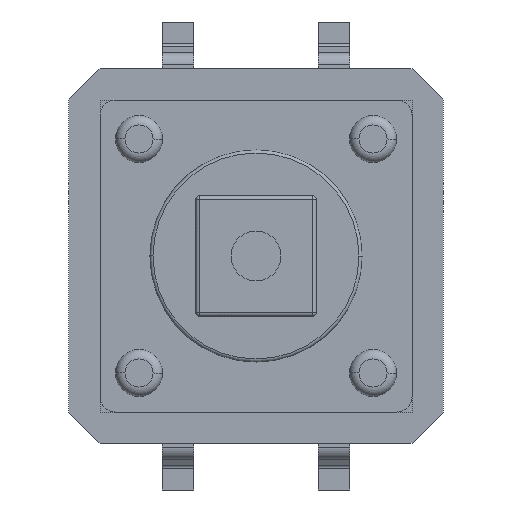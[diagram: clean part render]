
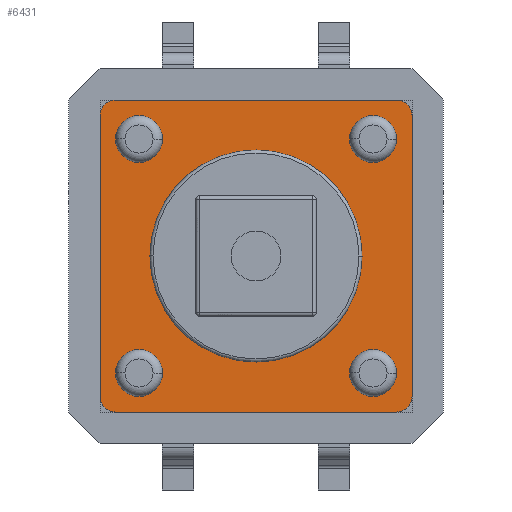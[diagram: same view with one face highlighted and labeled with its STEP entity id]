
A CAD part, front view. The second image highlights one B-rep face of the part: STEP entity #6431.
In plain terms, the highlighted planar face has unit normal (0, -1, 0).
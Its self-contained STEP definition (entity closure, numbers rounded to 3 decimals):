
#6062=CARTESIAN_POINT('',(-3.75,0.,-3.75));
#6063=DIRECTION('',(0.,-1.,0.));
#6064=DIRECTION('',(1.,0.,0.));
#6065=AXIS2_PLACEMENT_3D('',#6062,#6063,#6064);
#6067=CARTESIAN_POINT('',(-3.75,0.,-3.75));
#6068=DIRECTION('',(0.,-1.,0.));
#6069=DIRECTION('',(-1.,0.,0.));
#6070=AXIS2_PLACEMENT_3D('',#6067,#6068,#6069);
#6072=CARTESIAN_POINT('',(3.75,0.,-3.75));
#6073=DIRECTION('',(0.,-1.,0.));
#6074=DIRECTION('',(1.,0.,0.));
#6075=AXIS2_PLACEMENT_3D('',#6072,#6073,#6074);
#6077=CARTESIAN_POINT('',(3.75,0.,-3.75));
#6078=DIRECTION('',(0.,-1.,0.));
#6079=DIRECTION('',(-1.,0.,0.));
#6080=AXIS2_PLACEMENT_3D('',#6077,#6078,#6079);
#6082=CARTESIAN_POINT('',(3.75,0.,3.75));
#6083=DIRECTION('',(0.,-1.,0.));
#6084=DIRECTION('',(1.,0.,0.));
#6085=AXIS2_PLACEMENT_3D('',#6082,#6083,#6084);
#6087=CARTESIAN_POINT('',(3.75,0.,3.75));
#6088=DIRECTION('',(0.,-1.,0.));
#6089=DIRECTION('',(-1.,0.,0.));
#6090=AXIS2_PLACEMENT_3D('',#6087,#6088,#6089);
#6092=CARTESIAN_POINT('',(-3.75,0.,3.75));
#6093=DIRECTION('',(0.,-1.,0.));
#6094=DIRECTION('',(1.,0.,0.));
#6095=AXIS2_PLACEMENT_3D('',#6092,#6093,#6094);
#6097=CARTESIAN_POINT('',(-3.75,0.,3.75));
#6098=DIRECTION('',(0.,-1.,0.));
#6099=DIRECTION('',(-1.,0.,0.));
#6100=AXIS2_PLACEMENT_3D('',#6097,#6098,#6099);
#6102=CARTESIAN_POINT('',(0.,0.,0.));
#6103=DIRECTION('',(0.,-1.,0.));
#6104=DIRECTION('',(1.,0.,0.));
#6105=AXIS2_PLACEMENT_3D('',#6102,#6103,#6104);
#6107=CARTESIAN_POINT('',(0.,0.,0.));
#6108=DIRECTION('',(0.,-1.,0.));
#6109=DIRECTION('',(-1.,0.,0.));
#6110=AXIS2_PLACEMENT_3D('',#6107,#6108,#6109);
#6112=CARTESIAN_POINT('',(-4.5,0.,4.5));
#6113=DIRECTION('',(0.,-1.,0.));
#6114=DIRECTION('',(0.,0.,1.));
#6115=AXIS2_PLACEMENT_3D('',#6112,#6113,#6114);
#6117=DIRECTION('',(1.,0.,0.));
#6118=VECTOR('',#6117,9.);
#6119=CARTESIAN_POINT('',(-4.5,0.,5.));
#6120=LINE('',#6119,#6118);
#6121=CARTESIAN_POINT('',(4.5,0.,4.5));
#6122=DIRECTION('',(0.,-1.,0.));
#6123=DIRECTION('',(1.,0.,0.));
#6124=AXIS2_PLACEMENT_3D('',#6121,#6122,#6123);
#6126=DIRECTION('',(0.,0.,-1.));
#6127=VECTOR('',#6126,9.);
#6128=CARTESIAN_POINT('',(5.,0.,4.5));
#6129=LINE('',#6128,#6127);
#6130=CARTESIAN_POINT('',(4.5,0.,-4.5));
#6131=DIRECTION('',(0.,-1.,0.));
#6132=DIRECTION('',(0.,0.,-1.));
#6133=AXIS2_PLACEMENT_3D('',#6130,#6131,#6132);
#6135=DIRECTION('',(-1.,0.,0.));
#6136=VECTOR('',#6135,9.);
#6137=CARTESIAN_POINT('',(4.5,0.,-5.));
#6138=LINE('',#6137,#6136);
#6139=CARTESIAN_POINT('',(-4.5,0.,-4.5));
#6140=DIRECTION('',(0.,-1.,0.));
#6141=DIRECTION('',(-1.,0.,0.));
#6142=AXIS2_PLACEMENT_3D('',#6139,#6140,#6141);
#6144=DIRECTION('',(0.,0.,1.));
#6145=VECTOR('',#6144,9.);
#6146=CARTESIAN_POINT('',(-5.,0.,-4.5));
#6147=LINE('',#6146,#6145);
#6306=CARTESIAN_POINT('',(-3.5,0.,-3.75));
#6307=CARTESIAN_POINT('',(-4.,0.,-3.75));
#6308=VERTEX_POINT('',#6306);
#6309=VERTEX_POINT('',#6307);
#6310=CARTESIAN_POINT('',(4.,0.,-3.75));
#6311=CARTESIAN_POINT('',(3.5,0.,-3.75));
#6312=VERTEX_POINT('',#6310);
#6313=VERTEX_POINT('',#6311);
#6314=CARTESIAN_POINT('',(4.,0.,3.75));
#6315=CARTESIAN_POINT('',(3.5,0.,3.75));
#6316=VERTEX_POINT('',#6314);
#6317=VERTEX_POINT('',#6315);
#6318=CARTESIAN_POINT('',(-3.5,0.,3.75));
#6319=CARTESIAN_POINT('',(-4.,0.,3.75));
#6320=VERTEX_POINT('',#6318);
#6321=VERTEX_POINT('',#6319);
#6338=CARTESIAN_POINT('',(1.75,0.,0.));
#6339=CARTESIAN_POINT('',(-1.75,0.,0.));
#6340=VERTEX_POINT('',#6338);
#6341=VERTEX_POINT('',#6339);
#6346=CARTESIAN_POINT('',(-4.5,0.,5.));
#6347=CARTESIAN_POINT('',(-5.,0.,4.5));
#6348=VERTEX_POINT('',#6346);
#6349=VERTEX_POINT('',#6347);
#6354=CARTESIAN_POINT('',(5.,0.,4.5));
#6355=CARTESIAN_POINT('',(4.5,0.,5.));
#6356=VERTEX_POINT('',#6354);
#6357=VERTEX_POINT('',#6355);
#6362=CARTESIAN_POINT('',(4.5,0.,-5.));
#6363=CARTESIAN_POINT('',(5.,0.,-4.5));
#6364=VERTEX_POINT('',#6362);
#6365=VERTEX_POINT('',#6363);
#6370=CARTESIAN_POINT('',(-5.,0.,-4.5));
#6371=CARTESIAN_POINT('',(-4.5,0.,-5.));
#6372=VERTEX_POINT('',#6370);
#6373=VERTEX_POINT('',#6371);
#6378=CARTESIAN_POINT('',(0.,0.,0.));
#6379=DIRECTION('',(0.,1.,0.));
#6380=DIRECTION('',(1.,0.,0.));
#6381=AXIS2_PLACEMENT_3D('',#6378,#6379,#6380);
#6382=PLANE('',#6381);
#6384=ORIENTED_EDGE('',*,*,#6383,.F.);
#6386=ORIENTED_EDGE('',*,*,#6385,.T.);
#6388=ORIENTED_EDGE('',*,*,#6387,.F.);
#6390=ORIENTED_EDGE('',*,*,#6389,.T.);
#6392=ORIENTED_EDGE('',*,*,#6391,.F.);
#6394=ORIENTED_EDGE('',*,*,#6393,.T.);
#6396=ORIENTED_EDGE('',*,*,#6395,.F.);
#6398=ORIENTED_EDGE('',*,*,#6397,.T.);
#6399=EDGE_LOOP('',(#6384,#6386,#6388,#6390,#6392,#6394,#6396,#6398));
#6400=FACE_OUTER_BOUND('',#6399,.F.);
#6402=ORIENTED_EDGE('',*,*,#6401,.T.);
#6404=ORIENTED_EDGE('',*,*,#6403,.T.);
#6405=EDGE_LOOP('',(#6402,#6404));
#6406=FACE_BOUND('',#6405,.F.);
#6408=ORIENTED_EDGE('',*,*,#6407,.T.);
#6410=ORIENTED_EDGE('',*,*,#6409,.T.);
#6411=EDGE_LOOP('',(#6408,#6410));
#6412=FACE_BOUND('',#6411,.F.);
#6414=ORIENTED_EDGE('',*,*,#6413,.T.);
#6416=ORIENTED_EDGE('',*,*,#6415,.T.);
#6417=EDGE_LOOP('',(#6414,#6416));
#6418=FACE_BOUND('',#6417,.F.);
#6420=ORIENTED_EDGE('',*,*,#6419,.T.);
#6422=ORIENTED_EDGE('',*,*,#6421,.T.);
#6423=EDGE_LOOP('',(#6420,#6422));
#6424=FACE_BOUND('',#6423,.F.);
#6426=ORIENTED_EDGE('',*,*,#6425,.T.);
#6428=ORIENTED_EDGE('',*,*,#6427,.T.);
#6429=EDGE_LOOP('',(#6426,#6428));
#6430=FACE_BOUND('',#6429,.F.);
#6066=CIRCLE('',#6065,0.25);
#6071=CIRCLE('',#6070,0.25);
#6076=CIRCLE('',#6075,0.25);
#6081=CIRCLE('',#6080,0.25);
#6086=CIRCLE('',#6085,0.25);
#6091=CIRCLE('',#6090,0.25);
#6096=CIRCLE('',#6095,0.25);
#6101=CIRCLE('',#6100,0.25);
#6106=CIRCLE('',#6105,1.75);
#6111=CIRCLE('',#6110,1.75);
#6116=CIRCLE('',#6115,0.5);
#6125=CIRCLE('',#6124,0.5);
#6134=CIRCLE('',#6133,0.5);
#6143=CIRCLE('',#6142,0.5);
#6383=EDGE_CURVE('',#6348,#6349,#6116,.T.);
#6385=EDGE_CURVE('',#6348,#6357,#6120,.T.);
#6387=EDGE_CURVE('',#6356,#6357,#6125,.T.);
#6389=EDGE_CURVE('',#6356,#6365,#6129,.T.);
#6391=EDGE_CURVE('',#6364,#6365,#6134,.T.);
#6393=EDGE_CURVE('',#6364,#6373,#6138,.T.);
#6395=EDGE_CURVE('',#6372,#6373,#6143,.T.);
#6397=EDGE_CURVE('',#6372,#6349,#6147,.T.);
#6401=EDGE_CURVE('',#6312,#6313,#6076,.T.);
#6403=EDGE_CURVE('',#6313,#6312,#6081,.T.);
#6407=EDGE_CURVE('',#6316,#6317,#6086,.T.);
#6409=EDGE_CURVE('',#6317,#6316,#6091,.T.);
#6413=EDGE_CURVE('',#6320,#6321,#6096,.T.);
#6415=EDGE_CURVE('',#6321,#6320,#6101,.T.);
#6419=EDGE_CURVE('',#6340,#6341,#6106,.T.);
#6421=EDGE_CURVE('',#6341,#6340,#6111,.T.);
#6425=EDGE_CURVE('',#6308,#6309,#6066,.T.);
#6427=EDGE_CURVE('',#6309,#6308,#6071,.T.);
#6431=ADVANCED_FACE('',(#6400,#6406,#6412,#6418,#6424,#6430),#6382,.F.);
